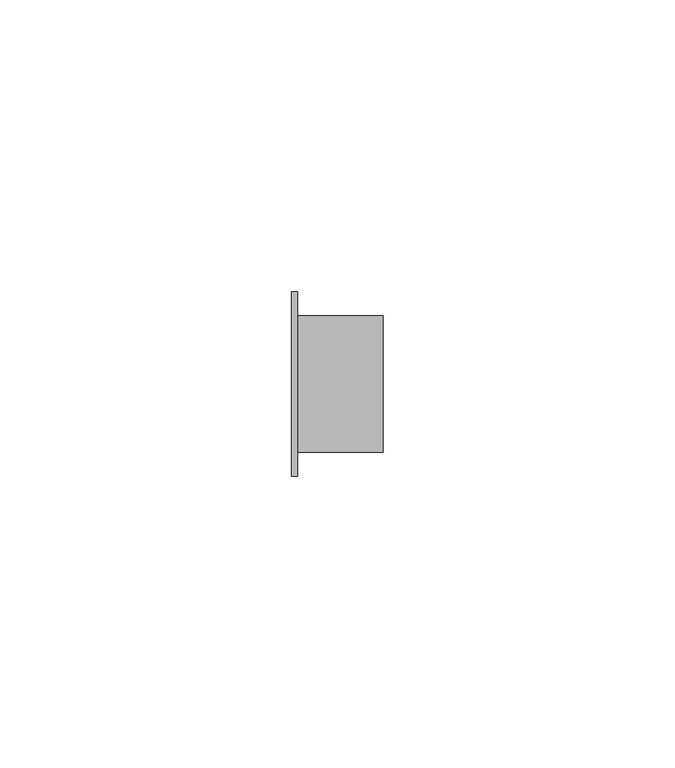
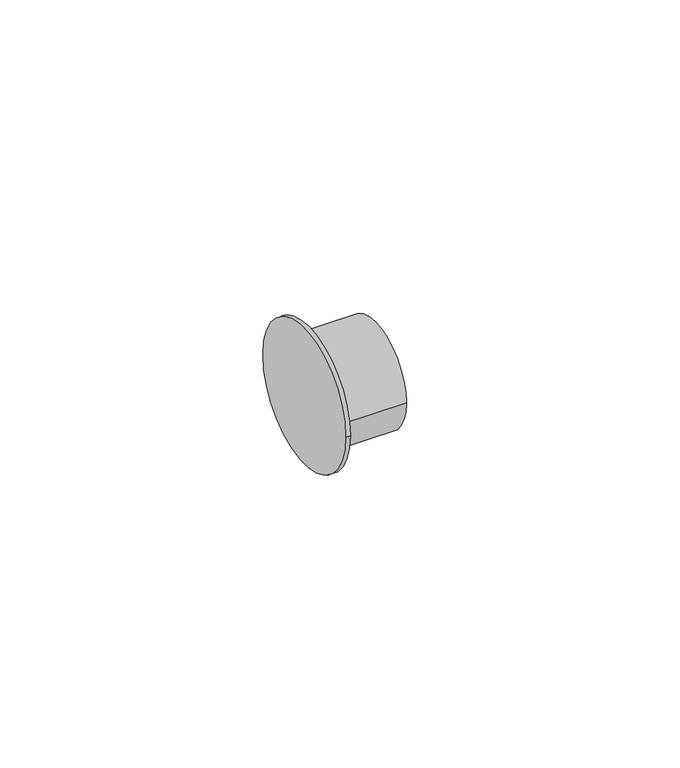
"""IFC4 building model written with IfcOpenShell, lengths in millimetres: pipe fitting geometry, Bucha de redução reta - Soldada - CU : Padrão."""

from ifc_helpers import new_model, si_unit, frame, origin, place, context, project, spatial, circle_curve, source, transform, mapped, element, save
from ifc_brep_helpers import plane_surface, cylinder_surface, advanced_brep


def pipe_fitting_fb233220(model_context):
    return source(origin(), model_context, "Body", "AdvancedBrep", [
        advanced_brep(
        [(0.0, -15.775, 0.0), (0.0, 15.775, 0.0), (1.0, -15.775, 0.0), (1.0, 15.775, 0.0), (1.0, -11.7322, 0.0), (1.0, 11.7322, 0.0), (15.6434, -11.7322, 0.0), (15.6434, 11.7322, 0.0)],
        [
            (0, 1, circle_curve(frame((0.0, 0.0, 0.0), z_axis=(-1.0, 0.0, 0.0), x_axis=(0.0, 1.0, 0.0)), 15.775)),
            (1, 0, circle_curve(frame((0.0, 0.0, 0.0), z_axis=(-1.0, 0.0, 0.0), x_axis=(0.0, 1.0, 0.0)), 15.775)),
            (2, 3, circle_curve(frame((1.0, 0.0, 0.0), z_axis=(1.0, 0.0, 0.0), x_axis=(0.0, 1.0, 0.0)), 15.775)),
            (3, 2, circle_curve(frame((1.0, 0.0, 0.0), z_axis=(1.0, 0.0, 0.0), x_axis=(0.0, 1.0, 0.0)), 15.775)),
            (4, 5, circle_curve(frame((1.0, 0.0, 0.0), z_axis=(-1.0, 0.0, 0.0), x_axis=(0.0, 1.0, 0.0)), 11.7322)),
            (5, 4, circle_curve(frame((1.0, 0.0, 0.0), z_axis=(-1.0, 0.0, 0.0), x_axis=(0.0, 1.0, 0.0)), 11.7322)),
            (0, 2),
            (3, 1),
            (6, 7, circle_curve(frame((15.6434, 0.0, 0.0), z_axis=(1.0, 0.0, 0.0), x_axis=(0.0, 1.0, 0.0)), 11.7322)),
            (7, 6, circle_curve(frame((15.6434, 0.0, 0.0), z_axis=(1.0, 0.0, 0.0), x_axis=(0.0, 1.0, 0.0)), 11.7322)),
            (7, 5),
            (4, 6),
        ],
        [
            plane_surface(frame((0.0, 0.0, 0.0), z_axis=(-1.0, 0.0, 0.0), x_axis=(0.0, 0.0, 1.0))),
            plane_surface(frame((1.0, 0.0, 0.0), z_axis=(1.0, 0.0, 0.0), x_axis=(0.0, 0.0, 1.0))),
            cylinder_surface(frame((0.0, 0.0, 0.0), z_axis=(-1.0, 0.0, 0.0), x_axis=(0.0, 1.0, 0.0)), 15.775),
            plane_surface(frame((15.6434, 0.0, 0.0), z_axis=(1.0, 0.0, 0.0), x_axis=(0.0, 0.0, 1.0))),
            cylinder_surface(frame((1.0, 0.0, 0.0), z_axis=(-1.0, 0.0, 0.0), x_axis=(0.0, 1.0, 0.0)), 11.7322),
        ],
        [
            (0, [[1, 2]]),
            (1, [[3, 4], [5, 6]]),
            (2, [[-1, 7, -4, 8]]),
            (2, [[-2, -8, -3, -7]]),
            (3, [[9, 10]]),
            (4, [[-10, 11, -5, 12]]),
            (4, [[-9, -12, -6, -11]]),
        ],
    ),
    ])


if __name__ == "__main__":
    model = new_model("IFC4")
    model_context = context("Model", 3, world=origin())
    ifc_project = project(units=[si_unit("LENGTHUNIT", "METRE", prefix="MILLI")], contexts=[model_context])
    site = spatial("IfcSite", under=ifc_project)
    building = spatial("IfcBuilding", under=site)
    placement = place(None, origin())
    pipe_fitting_shape = pipe_fitting_fb233220(model_context)
    element("IfcPipeFitting", 1, ObjectType="Bucha de redução reta - Soldada - CU : Padrão", at=placement, inside=building, context=model_context, shape_type="MappedRepresentation", body=[
        mapped(pipe_fitting_shape, transform((0.0, 0.0, 0.0), x_axis=(1.0, 0.0, 0.0), y_axis=(0.0, 1.0, 0.0), z_axis=(0.0, 0.0, 1.0))),
    ])
    save(model, "model.ifc")
